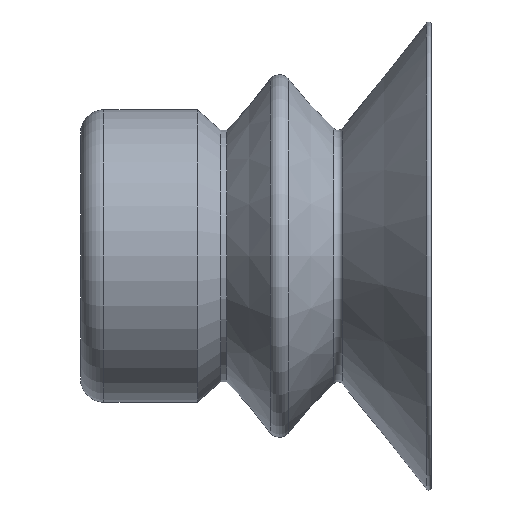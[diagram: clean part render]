
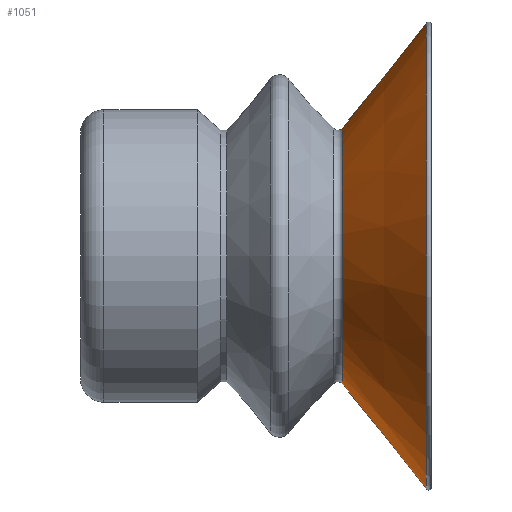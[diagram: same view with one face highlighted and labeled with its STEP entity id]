
A CAD part, left-side view. The second image highlights one B-rep face of the part: STEP entity #1051.
In plain terms, the highlighted conical face has half-angle 51.38 degrees and reference radius 15.417 mm.
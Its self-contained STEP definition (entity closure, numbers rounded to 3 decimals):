
#16 = CIRCLE ( 'NONE', #238, 10.928 ) ;
#182 = DIRECTION ( 'NONE',  ( -1., 0., 0. ) ) ;
#238 = AXIS2_PLACEMENT_3D ( 'NONE', #1895, #717, #1313 ) ;
#474 = EDGE_LOOP ( 'NONE', ( #596 ) ) ;
#529 = CARTESIAN_POINT ( 'NONE',  ( 0., 0.445, 0. ) ) ;
#586 = ORIENTED_EDGE ( 'NONE', *, *, #1568, .F. ) ;
#596 = ORIENTED_EDGE ( 'NONE', *, *, #1780, .T. ) ;
#717 = DIRECTION ( 'NONE',  ( 0., 1., 0. ) ) ;
#790 = CARTESIAN_POINT ( 'NONE',  ( 10.928, 7.617, 0. ) ) ;
#940 = DIRECTION ( 'NONE',  ( 0., -1., 0. ) ) ;
#951 = CONICAL_SURFACE ( 'NONE', #1518, 15.417, 0.897 ) ;
#972 = DIRECTION ( 'NONE',  ( 1., 0., 0. ) ) ;
#1016 = AXIS2_PLACEMENT_3D ( 'NONE', #529, #1126, #972 ) ;
#1051 = ADVANCED_FACE ( 'NONE', ( #1230, #1241 ), #951, .T. ) ;
#1126 = DIRECTION ( 'NONE',  ( 0., 1., 0. ) ) ;
#1230 = FACE_BOUND ( 'NONE', #1412, .T. ) ;
#1241 = FACE_OUTER_BOUND ( 'NONE', #474, .T. ) ;
#1313 = DIRECTION ( 'NONE',  ( 1., 0., 0. ) ) ;
#1412 = EDGE_LOOP ( 'NONE', ( #586 ) ) ;
#1518 = AXIS2_PLACEMENT_3D ( 'NONE', #1535, #940, #182 ) ;
#1535 = CARTESIAN_POINT ( 'NONE',  ( 0., 4.031, 0. ) ) ;
#1543 = VERTEX_POINT ( 'NONE', #1662 ) ;
#1568 = EDGE_CURVE ( 'NONE', #1796, #1796, #16, .T. ) ;
#1662 = CARTESIAN_POINT ( 'NONE',  ( 19.906, 0.445, 0. ) ) ;
#1780 = EDGE_CURVE ( 'NONE', #1543, #1543, #1858, .T. ) ;
#1796 = VERTEX_POINT ( 'NONE', #790 ) ;
#1858 = CIRCLE ( 'NONE', #1016, 19.906 ) ;
#1895 = CARTESIAN_POINT ( 'NONE',  ( 0., 7.617, 0. ) ) ;
